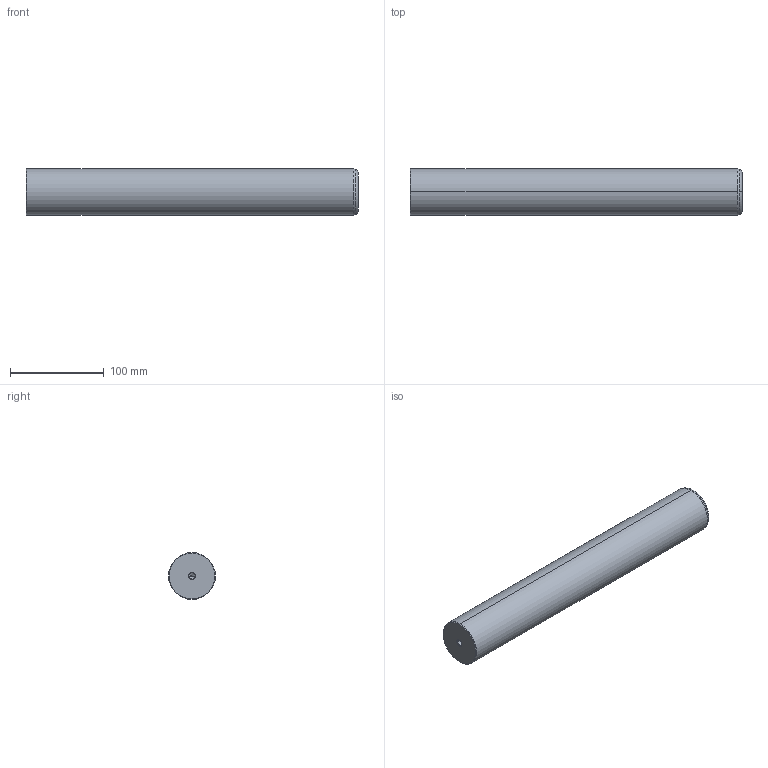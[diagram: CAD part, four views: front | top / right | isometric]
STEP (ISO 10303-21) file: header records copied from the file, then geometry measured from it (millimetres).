
FILE_DESCRIPTION(('CATIA V5 STEP Exchange'),'2;1');
FILE_NAME('C:\Users\Utente\Desktop\IO LAVORO\3D X SITO CF\X SITO\720\720-50x355.stp','2020-12-30T21:39:06+00:00',('none'),('none'),'CATIA Version 5 Release 20 GA (IN-10)','CATIA V5 STEP AP203','none');
FILE_SCHEMA(('CONFIG_CONTROL_DESIGN'));
Length unit declared in the file: millimetre
Products named in the file (1): 720-50x355
Bounding box: 355 x 50 x 50 mm (x, y, z)
Volume: 694496.1 mm3; surface area: 60282.9 mm2
Topology: 1 solids, 1 shells, 22 faces, 62 edges, 40 vertices
Faces by surface type: cone 12, cylinder 6, plane 2, torus 2
Entity records: 806 total; most frequent: CARTESIAN_POINT 229, ORIENTED_EDGE 116, DIRECTION 93, EDGE_CURVE 58, AXIS2_PLACEMENT_3D 54, VERTEX_POINT 40, CIRCLE 31, EDGE_LOOP 24
